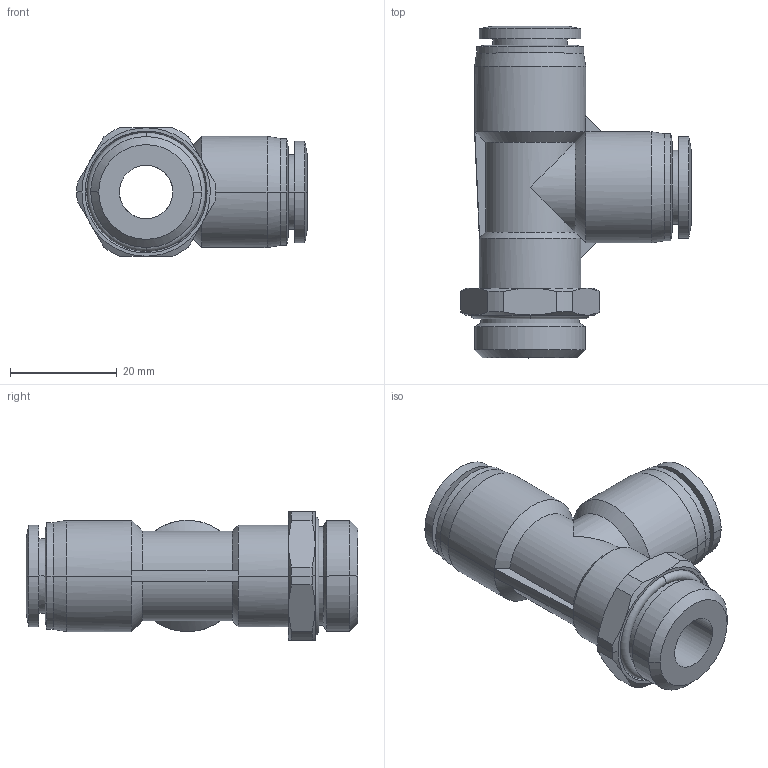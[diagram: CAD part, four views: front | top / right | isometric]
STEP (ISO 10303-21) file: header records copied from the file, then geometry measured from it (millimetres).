
FILE_DESCRIPTION (( 'STEP AP203' ), '1' );
FILE_NAME ('FLT12-04.STEP', '2020-05-12T14:19:48', ( '' ), ( '' ), 'SwSTEP 2.0', 'SolidWorks 2019', '' );
FILE_SCHEMA (( 'CONFIG_CONTROL_DESIGN' ));
Length unit declared in the file: millimetre
Products named in the file (1): FLT12-04
Bounding box: 43.15 x 62.05 x 24 mm (x, y, z)
Surface area: 10260.5 mm2 (no closed solid volume)
Topology: 0 solids, 4 shells, 118 faces, 286 edges, 179 vertices
Faces by surface type: cylinder 44, cone 38, plane 27, bspline 5, torus 4
Entity records: 6123 total; most frequent: CARTESIAN_POINT 3786, ORIENTED_EDGE 556, DIRECTION 291, EDGE_CURVE 286, B_SPLINE_CURVE_WITH_KNOTS 215, VERTEX_POINT 179, EDGE_LOOP 131, FACE_OUTER_BOUND 118
